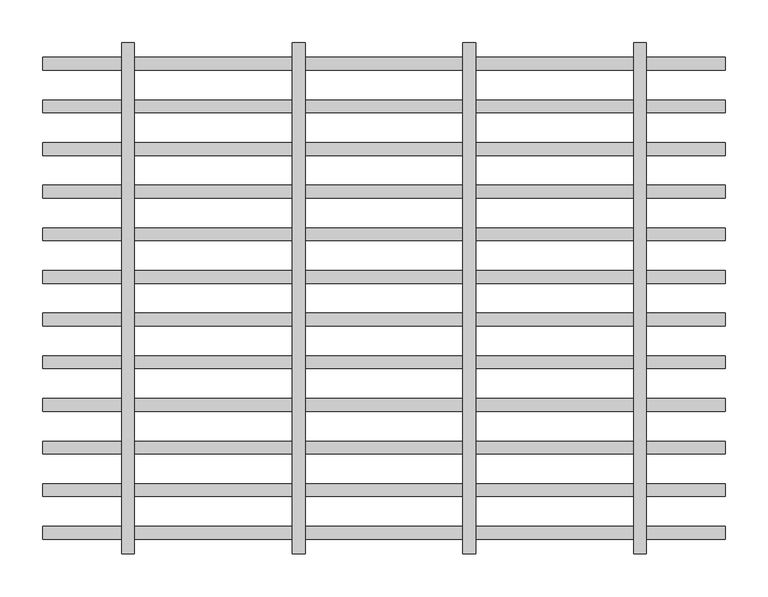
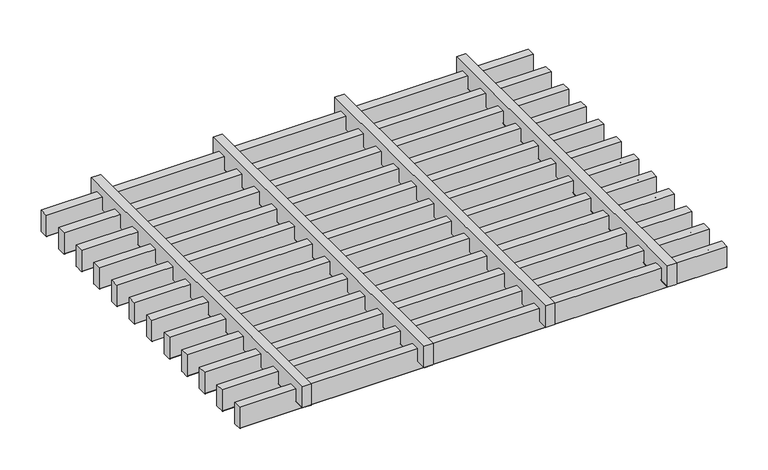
"""IFC4 building model written with IfcOpenShell, lengths in millimetres: proxy geometry, durlum_STARLAM_panel : durlum_STARLAM_15_length_cut."""

from ifc_helpers import new_model, si_unit, point, frame, frame_2d, origin, place, context, project, spatial, polyline, circle_curve, trimmed, segment, composite_curve, outline, extrude, source, transform, mapped, element, save


def generic_models_9f873a07(model_context):
    return source(origin(), model_context, "Body", "SweptSolid", [
        extrude(outline(composite_curve([segment(polyline([(-232.5, 37.0), (-217.5, 37.0), (-217.5, 0.5)]), True, "CONTINUOUS"), segment(trimmed(circle_curve(frame_2d((-218.0, 0.5)), 0.5), [point((-217.5, 0.5))], [point((-218.0, 0.0))], False, "CARTESIAN"), True, "CONTINUOUS"), segment(polyline([(-218.0, 0.0), (-232.0, 0.0)]), True, "CONTINUOUS"), segment(trimmed(circle_curve(frame_2d((-232.0, 0.5)), 0.5), [point((-232.0, 0.0))], [point((-232.5, 0.5))], False, "CARTESIAN"), True, "CONTINUOUS"), segment(polyline([(-232.5, 0.5), (-232.5, 37.0)]), True, "CONTINUOUS")], self_intersect=False)), frame((-399.875, 0.0, 0.0), z_axis=(1.0, 0.0, 0.0), x_axis=(0.0, 1.0, 0.0)), (0.0, 0.0, 1.0), 799.75),
        extrude(outline(composite_curve([segment(polyline([(-182.5, 37.0), (-167.5, 37.0), (-167.5, 0.5)]), True, "CONTINUOUS"), segment(trimmed(circle_curve(frame_2d((-168.0, 0.5)), 0.5), [point((-167.5, 0.5))], [point((-168.0, 0.0))], False, "CARTESIAN"), True, "CONTINUOUS"), segment(polyline([(-168.0, 0.0), (-182.0, 0.0)]), True, "CONTINUOUS"), segment(trimmed(circle_curve(frame_2d((-182.0, 0.5)), 0.5), [point((-182.0, 0.0))], [point((-182.5, 0.5))], False, "CARTESIAN"), True, "CONTINUOUS"), segment(polyline([(-182.5, 0.5), (-182.5, 37.0)]), True, "CONTINUOUS")], self_intersect=False)), frame((-399.875, 0.0, 0.0), z_axis=(1.0, 0.0, 0.0), x_axis=(0.0, 1.0, 0.0)), (0.0, 0.0, 1.0), 799.75),
        extrude(outline(composite_curve([segment(polyline([(-132.5, 37.0), (-117.5, 37.0), (-117.5, 0.5)]), True, "CONTINUOUS"), segment(trimmed(circle_curve(frame_2d((-118.0, 0.5)), 0.5), [point((-117.5, 0.5))], [point((-118.0, 0.0))], False, "CARTESIAN"), True, "CONTINUOUS"), segment(polyline([(-118.0, 0.0), (-132.0, 0.0)]), True, "CONTINUOUS"), segment(trimmed(circle_curve(frame_2d((-132.0, 0.5)), 0.5), [point((-132.0, 0.0))], [point((-132.5, 0.5))], False, "CARTESIAN"), True, "CONTINUOUS"), segment(polyline([(-132.5, 0.5), (-132.5, 37.0)]), True, "CONTINUOUS")], self_intersect=False)), frame((-399.875, 0.0, 0.0), z_axis=(1.0, 0.0, 0.0), x_axis=(0.0, 1.0, 0.0)), (0.0, 0.0, 1.0), 799.75),
        extrude(outline(composite_curve([segment(polyline([(-82.5, 37.0), (-67.5, 37.0), (-67.5, 0.5)]), True, "CONTINUOUS"), segment(trimmed(circle_curve(frame_2d((-68.0, 0.5)), 0.5), [point((-67.5, 0.5))], [point((-68.0, 0.0))], False, "CARTESIAN"), True, "CONTINUOUS"), segment(polyline([(-68.0, 0.0), (-82.0, 0.0)]), True, "CONTINUOUS"), segment(trimmed(circle_curve(frame_2d((-82.0, 0.5)), 0.5), [point((-82.0, 0.0))], [point((-82.5, 0.5))], False, "CARTESIAN"), True, "CONTINUOUS"), segment(polyline([(-82.5, 0.5), (-82.5, 37.0)]), True, "CONTINUOUS")], self_intersect=False)), frame((-399.875, 0.0, 0.0), z_axis=(1.0, 0.0, 0.0), x_axis=(0.0, 1.0, 0.0)), (0.0, 0.0, 1.0), 799.75),
        extrude(outline(composite_curve([segment(polyline([(51.0, 107.5), (51.0, 92.5), (14.5, 92.5)]), True, "CONTINUOUS"), segment(trimmed(circle_curve(frame_2d((14.5, 93.0)), 0.5), [point((14.5, 92.5))], [point((14.0, 93.0))], False, "CARTESIAN"), True, "CONTINUOUS"), segment(polyline([(14.0, 93.0), (14.0, 107.0)]), True, "CONTINUOUS"), segment(trimmed(circle_curve(frame_2d((14.5, 107.0)), 0.5), [point((14.0, 107.0))], [point((14.5, 107.5))], False, "CARTESIAN"), True, "CONTINUOUS"), segment(polyline([(14.5, 107.5), (51.0, 107.5)]), True, "CONTINUOUS")], self_intersect=False)), frame((0.0, -299.75, 0.0), z_axis=(0.0, 1.0, 0.0), x_axis=(0.0, 0.0, 1.0)), (0.0, 0.0, 1.0), 599.5),
        extrude(outline(composite_curve([segment(polyline([(51.0, -92.5), (51.0, -107.5), (14.5, -107.5)]), True, "CONTINUOUS"), segment(trimmed(circle_curve(frame_2d((14.5, -107.0)), 0.5), [point((14.5, -107.5))], [point((14.0, -107.0))], False, "CARTESIAN"), True, "CONTINUOUS"), segment(polyline([(14.0, -107.0), (14.0, -93.0)]), True, "CONTINUOUS"), segment(trimmed(circle_curve(frame_2d((14.5, -93.0)), 0.5), [point((14.0, -93.0))], [point((14.5, -92.5))], False, "CARTESIAN"), True, "CONTINUOUS"), segment(polyline([(14.5, -92.5), (51.0, -92.5)]), True, "CONTINUOUS")], self_intersect=False)), frame((0.0, -299.75, 0.0), z_axis=(0.0, 1.0, 0.0), x_axis=(0.0, 0.0, 1.0)), (0.0, 0.0, 1.0), 599.5),
        extrude(outline(composite_curve([segment(polyline([(-32.5, 37.0), (-17.5, 37.0), (-17.5, 0.5)]), True, "CONTINUOUS"), segment(trimmed(circle_curve(frame_2d((-18.0, 0.5)), 0.5), [point((-17.5, 0.5))], [point((-18.0, 0.0))], False, "CARTESIAN"), True, "CONTINUOUS"), segment(polyline([(-18.0, 0.0), (-32.0, 0.0)]), True, "CONTINUOUS"), segment(trimmed(circle_curve(frame_2d((-32.0, 0.5)), 0.5), [point((-32.0, 0.0))], [point((-32.5, 0.5))], False, "CARTESIAN"), True, "CONTINUOUS"), segment(polyline([(-32.5, 0.5), (-32.5, 37.0)]), True, "CONTINUOUS")], self_intersect=False)), frame((-399.875, 0.0, 0.0), z_axis=(1.0, 0.0, 0.0), x_axis=(0.0, 1.0, 0.0)), (0.0, 0.0, 1.0), 799.75),
        extrude(outline(composite_curve([segment(polyline([(17.5, 37.0), (32.5, 37.0), (32.5, 0.5)]), True, "CONTINUOUS"), segment(trimmed(circle_curve(frame_2d((32.0, 0.5)), 0.5), [point((32.5, 0.5))], [point((32.0, 0.0))], False, "CARTESIAN"), True, "CONTINUOUS"), segment(polyline([(32.0, 0.0), (18.0, 0.0)]), True, "CONTINUOUS"), segment(trimmed(circle_curve(frame_2d((18.0, 0.5)), 0.5), [point((18.0, 0.0))], [point((17.5, 0.5))], False, "CARTESIAN"), True, "CONTINUOUS"), segment(polyline([(17.5, 0.5), (17.5, 37.0)]), True, "CONTINUOUS")], self_intersect=False)), frame((-399.875, 0.0, 0.0), z_axis=(1.0, 0.0, 0.0), x_axis=(0.0, 1.0, 0.0)), (0.0, 0.0, 1.0), 799.75),
        extrude(outline(composite_curve([segment(polyline([(67.5, 37.0), (82.5, 37.0), (82.5, 0.5)]), True, "CONTINUOUS"), segment(trimmed(circle_curve(frame_2d((82.0, 0.5)), 0.5), [point((82.5, 0.5))], [point((82.0, 0.0))], False, "CARTESIAN"), True, "CONTINUOUS"), segment(polyline([(82.0, 0.0), (68.0, 0.0)]), True, "CONTINUOUS"), segment(trimmed(circle_curve(frame_2d((68.0, 0.5)), 0.5), [point((68.0, 0.0))], [point((67.5, 0.5))], False, "CARTESIAN"), True, "CONTINUOUS"), segment(polyline([(67.5, 0.5), (67.5, 37.0)]), True, "CONTINUOUS")], self_intersect=False)), frame((-399.875, 0.0, 0.0), z_axis=(1.0, 0.0, 0.0), x_axis=(0.0, 1.0, 0.0)), (0.0, 0.0, 1.0), 799.75),
        extrude(outline(composite_curve([segment(polyline([(117.5, 37.0), (132.5, 37.0), (132.5, 0.5)]), True, "CONTINUOUS"), segment(trimmed(circle_curve(frame_2d((132.0, 0.5)), 0.5), [point((132.5, 0.5))], [point((132.0, 0.0))], False, "CARTESIAN"), True, "CONTINUOUS"), segment(polyline([(132.0, 0.0), (118.0, 0.0)]), True, "CONTINUOUS"), segment(trimmed(circle_curve(frame_2d((118.0, 0.5)), 0.5), [point((118.0, 0.0))], [point((117.5, 0.5))], False, "CARTESIAN"), True, "CONTINUOUS"), segment(polyline([(117.5, 0.5), (117.5, 37.0)]), True, "CONTINUOUS")], self_intersect=False)), frame((-399.875, 0.0, 0.0), z_axis=(1.0, 0.0, 0.0), x_axis=(0.0, 1.0, 0.0)), (0.0, 0.0, 1.0), 799.75),
        extrude(outline(composite_curve([segment(polyline([(167.5, 37.0), (182.5, 37.0), (182.5, 0.5)]), True, "CONTINUOUS"), segment(trimmed(circle_curve(frame_2d((182.0, 0.5)), 0.5), [point((182.5, 0.5))], [point((182.0, 0.0))], False, "CARTESIAN"), True, "CONTINUOUS"), segment(polyline([(182.0, 0.0), (168.0, 0.0)]), True, "CONTINUOUS"), segment(trimmed(circle_curve(frame_2d((168.0, 0.5)), 0.5), [point((168.0, 0.0))], [point((167.5, 0.5))], False, "CARTESIAN"), True, "CONTINUOUS"), segment(polyline([(167.5, 0.5), (167.5, 37.0)]), True, "CONTINUOUS")], self_intersect=False)), frame((-399.875, 0.0, 0.0), z_axis=(1.0, 0.0, 0.0), x_axis=(0.0, 1.0, 0.0)), (0.0, 0.0, 1.0), 799.75),
        extrude(outline(composite_curve([segment(polyline([(217.5, 37.0), (232.5, 37.0), (232.5, 0.5)]), True, "CONTINUOUS"), segment(trimmed(circle_curve(frame_2d((232.0, 0.5)), 0.5), [point((232.5, 0.5))], [point((232.0, 0.0))], False, "CARTESIAN"), True, "CONTINUOUS"), segment(polyline([(232.0, 0.0), (218.0, 0.0)]), True, "CONTINUOUS"), segment(trimmed(circle_curve(frame_2d((218.0, 0.5)), 0.5), [point((218.0, 0.0))], [point((217.5, 0.5))], False, "CARTESIAN"), True, "CONTINUOUS"), segment(polyline([(217.5, 0.5), (217.5, 37.0)]), True, "CONTINUOUS")], self_intersect=False)), frame((-399.875, 0.0, 0.0), z_axis=(1.0, 0.0, 0.0), x_axis=(0.0, 1.0, 0.0)), (0.0, 0.0, 1.0), 799.75),
        extrude(outline(composite_curve([segment(polyline([(51.0, 307.5), (51.0, 292.5), (14.5, 292.5)]), True, "CONTINUOUS"), segment(trimmed(circle_curve(frame_2d((14.5, 293.0)), 0.5), [point((14.5, 292.5))], [point((14.0, 293.0))], False, "CARTESIAN"), True, "CONTINUOUS"), segment(polyline([(14.0, 293.0), (14.0, 307.0)]), True, "CONTINUOUS"), segment(trimmed(circle_curve(frame_2d((14.5, 307.0)), 0.5), [point((14.0, 307.0))], [point((14.5, 307.5))], False, "CARTESIAN"), True, "CONTINUOUS"), segment(polyline([(14.5, 307.5), (51.0, 307.5)]), True, "CONTINUOUS")], self_intersect=False)), frame((0.0, -299.75, 0.0), z_axis=(0.0, 1.0, 0.0), x_axis=(0.0, 0.0, 1.0)), (0.0, 0.0, 1.0), 599.5),
        extrude(outline(composite_curve([segment(polyline([(51.0, -292.5), (51.0, -307.5), (14.5, -307.5)]), True, "CONTINUOUS"), segment(trimmed(circle_curve(frame_2d((14.5, -307.0)), 0.5), [point((14.5, -307.5))], [point((14.0, -307.0))], False, "CARTESIAN"), True, "CONTINUOUS"), segment(polyline([(14.0, -307.0), (14.0, -293.0)]), True, "CONTINUOUS"), segment(trimmed(circle_curve(frame_2d((14.5, -293.0)), 0.5), [point((14.0, -293.0))], [point((14.5, -292.5))], False, "CARTESIAN"), True, "CONTINUOUS"), segment(polyline([(14.5, -292.5), (51.0, -292.5)]), True, "CONTINUOUS")], self_intersect=False)), frame((0.0, -299.75, 0.0), z_axis=(0.0, 1.0, 0.0), x_axis=(0.0, 0.0, 1.0)), (0.0, 0.0, 1.0), 599.5),
        extrude(outline(composite_curve([segment(polyline([(-282.5, 37.0), (-267.5, 37.0), (-267.5, 0.5)]), True, "CONTINUOUS"), segment(trimmed(circle_curve(frame_2d((-268.0, 0.5)), 0.5), [point((-267.5, 0.5))], [point((-268.0, 0.0))], False, "CARTESIAN"), True, "CONTINUOUS"), segment(polyline([(-268.0, 0.0), (-282.0, 0.0)]), True, "CONTINUOUS"), segment(trimmed(circle_curve(frame_2d((-282.0, 0.5)), 0.5), [point((-282.0, 0.0))], [point((-282.5, 0.5))], False, "CARTESIAN"), True, "CONTINUOUS"), segment(polyline([(-282.5, 0.5), (-282.5, 37.0)]), True, "CONTINUOUS")], self_intersect=False)), frame((-399.875, 0.0, 0.0), z_axis=(1.0, 0.0, 0.0), x_axis=(0.0, 1.0, 0.0)), (0.0, 0.0, 1.0), 799.75),
        extrude(outline(composite_curve([segment(polyline([(267.5, 37.0), (282.5, 37.0), (282.5, 0.5)]), True, "CONTINUOUS"), segment(trimmed(circle_curve(frame_2d((282.0, 0.5)), 0.5), [point((282.5, 0.5))], [point((282.0, 0.0))], False, "CARTESIAN"), True, "CONTINUOUS"), segment(polyline([(282.0, 0.0), (268.0, 0.0)]), True, "CONTINUOUS"), segment(trimmed(circle_curve(frame_2d((268.0, 0.5)), 0.5), [point((268.0, 0.0))], [point((267.5, 0.5))], False, "CARTESIAN"), True, "CONTINUOUS"), segment(polyline([(267.5, 0.5), (267.5, 37.0)]), True, "CONTINUOUS")], self_intersect=False)), frame((-399.875, 0.0, 0.0), z_axis=(1.0, 0.0, 0.0), x_axis=(0.0, 1.0, 0.0)), (0.0, 0.0, 1.0), 799.75),
    ])


if __name__ == "__main__":
    model = new_model("IFC4")
    model_context = context("Model", 3, world=origin())
    ifc_project = project(units=[si_unit("LENGTHUNIT", "METRE", prefix="MILLI")], contexts=[model_context])
    site = spatial("IfcSite", under=ifc_project)
    building = spatial("IfcBuilding", under=site)
    placement = place(None, origin())
    generic_models_shape = generic_models_9f873a07(model_context)
    element("IfcBuildingElementProxy", 1, Name="durlum_STARLAM_panel : durlum_STARLAM_15_length_cut", ObjectType="durlum_STARLAM_panel : durlum_STARLAM_15_length_cut", at=placement, inside=building, context=model_context, shape_type="MappedRepresentation", body=[
        mapped(generic_models_shape, transform((0.0, 0.0, 0.0), x_axis=(1.0, 0.0, 0.0), y_axis=(0.0, 1.0, 0.0), z_axis=(0.0, 0.0, 1.0))),
    ])
    save(model, "model.ifc")
